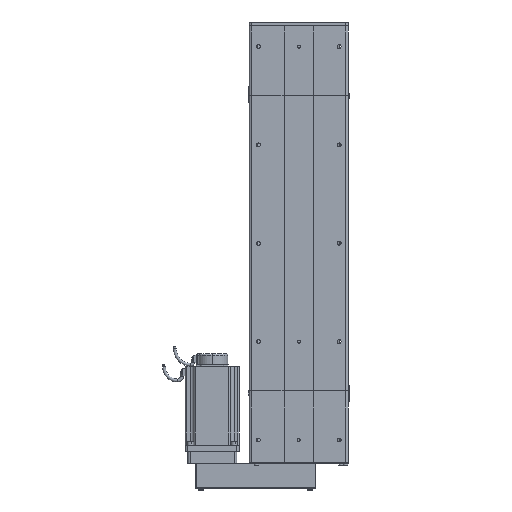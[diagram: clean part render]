
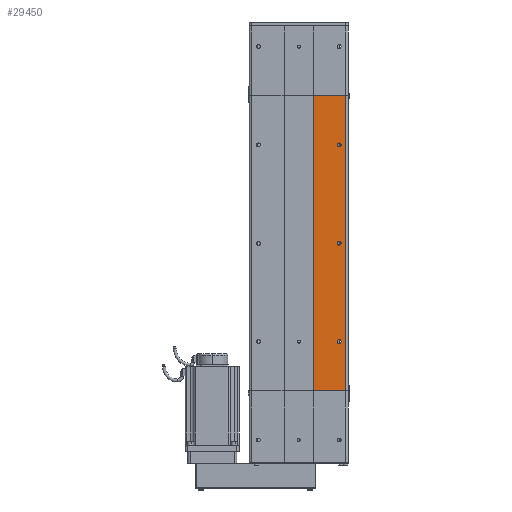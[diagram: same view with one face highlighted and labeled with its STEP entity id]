
A CAD part, front view. The second image highlights one B-rep face of the part: STEP entity #29450.
In plain terms, the highlighted planar face has unit normal (0, -1, 0).
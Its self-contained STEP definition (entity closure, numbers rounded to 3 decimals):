
#26175 = ORIENTED_EDGE ( 'NONE', *, *, #29875, .F. ) ;
#29327 = EDGE_LOOP ( 'NONE', ( #29948, #29453 ) ) ;
#29450 = ADVANCED_FACE ( 'NONE', ( #45656, #45829, #45645, #45636 ), #45655, .F. ) ;
#29453 = ORIENTED_EDGE ( 'NONE', *, *, #51376, .F. ) ;
#29548 = ORIENTED_EDGE ( 'NONE', *, *, #51356, .F. ) ;
#29556 = EDGE_LOOP ( 'NONE', ( #29936, #29548 ) ) ;
#29565 = EDGE_CURVE ( 'NONE', #51259, #51260, #46098, .T. ) ;
#29673 = VERTEX_POINT ( 'NONE', #46238 ) ;
#29677 = EDGE_LOOP ( 'NONE', ( #29867, #30312 ) ) ;
#29867 = ORIENTED_EDGE ( 'NONE', *, *, #29886, .F. ) ;
#29875 = EDGE_CURVE ( 'NONE', #29673, #29876, #46392, .T. ) ;
#29876 = VERTEX_POINT ( 'NONE', #46391 ) ;
#29886 = EDGE_CURVE ( 'NONE', #51274, #51288, #46384, .T. ) ;
#29936 = ORIENTED_EDGE ( 'NONE', *, *, #30059, .F. ) ;
#29948 = ORIENTED_EDGE ( 'NONE', *, *, #29565, .F. ) ;
#30000 = EDGE_CURVE ( 'NONE', #30259, #29876, #46481, .T. ) ;
#30059 = EDGE_CURVE ( 'NONE', #51349, #51132, #46657, .T. ) ;
#30239 = VERTEX_POINT ( 'NONE', #46813 ) ;
#30257 = ORIENTED_EDGE ( 'NONE', *, *, #30000, .T. ) ;
#30259 = VERTEX_POINT ( 'NONE', #46562 ) ;
#30263 = EDGE_CURVE ( 'NONE', #30239, #29673, #46801, .T. ) ;
#30264 = EDGE_LOOP ( 'NONE', ( #30271, #30267, #30257, #26175 ) ) ;
#30267 = ORIENTED_EDGE ( 'NONE', *, *, #30273, .F. ) ;
#30271 = ORIENTED_EDGE ( 'NONE', *, *, #30263, .F. ) ;
#30273 = EDGE_CURVE ( 'NONE', #30259, #30239, #46249, .T. ) ;
#30312 = ORIENTED_EDGE ( 'NONE', *, *, #51245, .F. ) ;
#31240 = CARTESIAN_POINT ( 'NONE',  ( 78., -34.5, 500. ) ) ;
#31552 = CARTESIAN_POINT ( 'NONE',  ( 86., -34.5, 300. ) ) ;
#31804 = DIRECTION ( 'NONE',  ( 1., 0., 0. ) ) ;
#31805 = AXIS2_PLACEMENT_3D ( 'NONE', #31810, #32093, #31804 ) ;
#31810 = CARTESIAN_POINT ( 'NONE',  ( 82., -34.5, 300. ) ) ;
#32017 = CIRCLE ( 'NONE', #31805, 4. ) ;
#32093 = DIRECTION ( 'NONE',  ( 0., -1., 0. ) ) ;
#32244 = CARTESIAN_POINT ( 'NONE',  ( 78., -34.5, 100. ) ) ;
#32247 = CARTESIAN_POINT ( 'NONE',  ( 86., -34.5, 100. ) ) ;
#32570 = DIRECTION ( 'NONE',  ( 1., 0., 0. ) ) ;
#32573 = DIRECTION ( 'NONE',  ( 0., -1., 0. ) ) ;
#32591 = CIRCLE ( 'NONE', #32603, 4. ) ;
#32603 = AXIS2_PLACEMENT_3D ( 'NONE', #32882, #32573, #32570 ) ;
#32810 = CARTESIAN_POINT ( 'NONE',  ( 86., -34.5, 500. ) ) ;
#32873 = CARTESIAN_POINT ( 'NONE',  ( 78., -34.5, 300. ) ) ;
#32882 = CARTESIAN_POINT ( 'NONE',  ( 82., -34.5, 500. ) ) ;
#33301 = AXIS2_PLACEMENT_3D ( 'NONE', #33307, #33348, #33542 ) ;
#33307 = CARTESIAN_POINT ( 'NONE',  ( 82., -34.5, 100. ) ) ;
#33348 = DIRECTION ( 'NONE',  ( 0., -1., 0. ) ) ;
#33542 = DIRECTION ( 'NONE',  ( 1., 0., 0. ) ) ;
#33644 = CIRCLE ( 'NONE', #33301, 4. ) ;
#45631 = DIRECTION ( 'NONE',  ( -1., 0., 0. ) ) ;
#45636 = FACE_OUTER_BOUND ( 'NONE', #30264, .T. ) ;
#45645 = FACE_BOUND ( 'NONE', #29327, .T. ) ;
#45655 = PLANE ( 'NONE',  #45736 ) ;
#45656 = FACE_BOUND ( 'NONE', #29556, .T. ) ;
#45723 = DIRECTION ( 'NONE',  ( 0., 1., 0. ) ) ;
#45724 = CARTESIAN_POINT ( 'NONE',  ( -96., -34.5, 600. ) ) ;
#45736 = AXIS2_PLACEMENT_3D ( 'NONE', #45724, #45723, #45631 ) ;
#45829 = FACE_BOUND ( 'NONE', #29677, .T. ) ;
#46098 = CIRCLE ( 'NONE', #46157, 4. ) ;
#46154 = DIRECTION ( 'NONE',  ( 1., 0., 0. ) ) ;
#46155 = DIRECTION ( 'NONE',  ( 0., -1., 0. ) ) ;
#46156 = CARTESIAN_POINT ( 'NONE',  ( 82., -34.5, 100. ) ) ;
#46157 = AXIS2_PLACEMENT_3D ( 'NONE', #46156, #46155, #46154 ) ;
#46238 = CARTESIAN_POINT ( 'NONE',  ( 96., -34.5, 600. ) ) ;
#46247 = DIRECTION ( 'NONE',  ( 1., 0., 0. ) ) ;
#46248 = DIRECTION ( 'NONE',  ( 0., -1., 0. ) ) ;
#46249 = LINE ( 'NONE', #46323, #46397 ) ;
#46252 = CARTESIAN_POINT ( 'NONE',  ( 82., -34.5, 300. ) ) ;
#46322 = DIRECTION ( 'NONE',  ( 0., 0., 1. ) ) ;
#46323 = CARTESIAN_POINT ( 'NONE',  ( 30., -34.5, 0. ) ) ;
#46384 = CIRCLE ( 'NONE', #46402, 4. ) ;
#46387 = DIRECTION ( 'NONE',  ( 0., 0., -1. ) ) ;
#46388 = VECTOR ( 'NONE', #46387, 1000. ) ;
#46389 = CARTESIAN_POINT ( 'NONE',  ( 96., -34.5, 600. ) ) ;
#46391 = CARTESIAN_POINT ( 'NONE',  ( 96., -34.5, 0. ) ) ;
#46392 = LINE ( 'NONE', #46389, #46388 ) ;
#46397 = VECTOR ( 'NONE', #46322, 1000. ) ;
#46402 = AXIS2_PLACEMENT_3D ( 'NONE', #46252, #46248, #46247 ) ;
#46477 = DIRECTION ( 'NONE',  ( 1., 0., 0. ) ) ;
#46478 = VECTOR ( 'NONE', #46477, 1000. ) ;
#46479 = CARTESIAN_POINT ( 'NONE',  ( -96., -34.5, 0. ) ) ;
#46481 = LINE ( 'NONE', #46479, #46478 ) ;
#46562 = CARTESIAN_POINT ( 'NONE',  ( 30., -34.5, 0. ) ) ;
#46657 = CIRCLE ( 'NONE', #46666, 4. ) ;
#46663 = DIRECTION ( 'NONE',  ( 1., 0., 0. ) ) ;
#46664 = DIRECTION ( 'NONE',  ( 0., -1., 0. ) ) ;
#46665 = CARTESIAN_POINT ( 'NONE',  ( 82., -34.5, 500. ) ) ;
#46666 = AXIS2_PLACEMENT_3D ( 'NONE', #46665, #46664, #46663 ) ;
#46798 = DIRECTION ( 'NONE',  ( 1., 0., 0. ) ) ;
#46799 = VECTOR ( 'NONE', #46798, 1000. ) ;
#46800 = CARTESIAN_POINT ( 'NONE',  ( -96., -34.5, 600. ) ) ;
#46801 = LINE ( 'NONE', #46800, #46799 ) ;
#46813 = CARTESIAN_POINT ( 'NONE',  ( 30., -34.5, 600. ) ) ;
#51132 = VERTEX_POINT ( 'NONE', #31240 ) ;
#51245 = EDGE_CURVE ( 'NONE', #51288, #51274, #32017, .T. ) ;
#51259 = VERTEX_POINT ( 'NONE', #32247 ) ;
#51260 = VERTEX_POINT ( 'NONE', #32244 ) ;
#51274 = VERTEX_POINT ( 'NONE', #31552 ) ;
#51288 = VERTEX_POINT ( 'NONE', #32873 ) ;
#51349 = VERTEX_POINT ( 'NONE', #32810 ) ;
#51356 = EDGE_CURVE ( 'NONE', #51132, #51349, #32591, .T. ) ;
#51376 = EDGE_CURVE ( 'NONE', #51260, #51259, #33644, .T. ) ;
